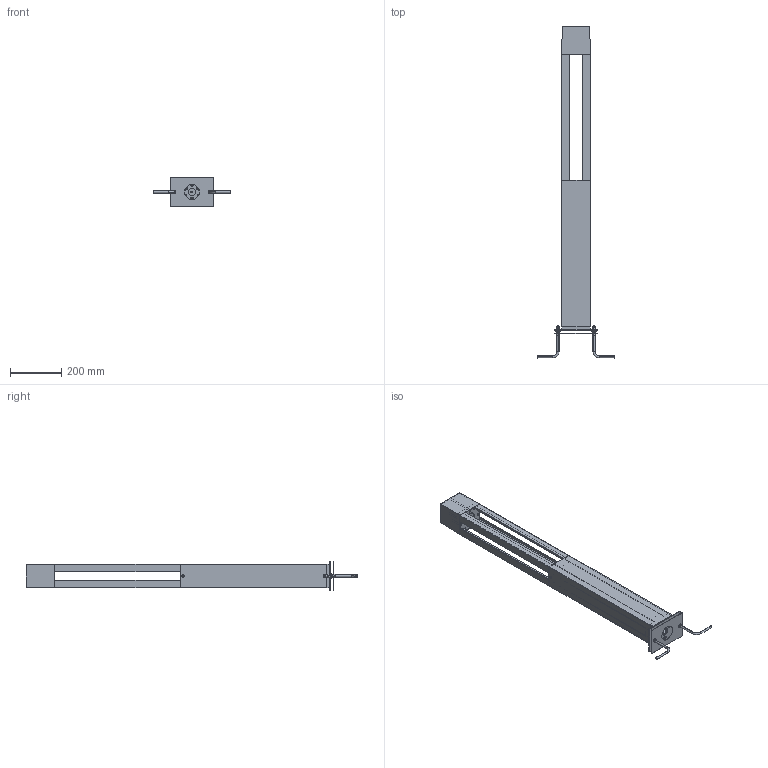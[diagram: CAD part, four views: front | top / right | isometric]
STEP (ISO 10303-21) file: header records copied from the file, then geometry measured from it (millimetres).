
FILE_DESCRIPTION((''),'2;1');
FILE_NAME('__9AU_1100_ANY_ASM_ANY_ASM','2024-09-19T',('Administrator'),(''),'CREO PARAMETRIC BY PTC INC, 2014500','CREO PARAMETRIC BY PTC INC, 2014500','');
FILE_SCHEMA(('CONFIG_CONTROL_DESIGN'));
Products named in the file (37): 9AU__U_O_W_M5_91_ANY_ANY; 9AU__U_O_W_1100_ANY-52988_ANY; 9AU__U_O_W__W___ANY_ANY; 9AU__U_O_W____Y_ANY_ANY; 9AU__U_O_W_1100_ANY-5680_ASM_AN_ASM; 9AU________W________ANY_ANY; 9AU________W_1100_ANY-29434_ANY; 9AU________W_1100_ANY-53109_ASM_ASM; 9AU__U_O_W____Y_____L___ANY_1_A; 9AU__U_O_W____Y________L_ANY_AN; 9AU__U_O_W____Y_____L______U_AN; 9AU__U_O_W____Y_____L______U___; 9AU__U_O_W____L_ANY_ANY; ___X__445_9AU__U_O_W____Y-75681_ASM; 9AU-JICHUZUO_ASM; 9AU__O_Y__________M4_105_ANY_AN; 9AU__SHANGGAI; 9AU__________ANY_ANY; 9AU__MG; GYZHUJIAN_ASM_ANY_ASM; 9AU__O_Y_____PC_ANY_ANY; 9AU__O_Y___________________ANY_; HKY1254413D742D_1; HKY1254413D742D_2; HKY1254413D742D_3; HKY1254413D742D_ASM; SANREBAN; D45-_-E_STP_ASM; QUDONG; HOUGAI; YABAN; M3LUOZHU; 1277QUDONG; M3LUOZHU_1_ANY; GUDINGBAN; 9AU__DENGTOU-110_ASM; __9AU_1100_ANY_ASM_ANY_ASM
Assembly tree (59 placements, depth 5):
  __9AU_1100_ANY_ASM_ANY_ASM
    9AU__U_O_W_1100_ANY-5680_ASM_AN_ASM
      9AU__U_O_W_M5_91_ANY_ANY  x4
      9AU__U_O_W_1100_ANY-52988_ANY
      9AU__U_O_W__W___ANY_ANY
      9AU__U_O_W____Y_ANY_ANY
    9AU________W_1100_ANY-53109_ASM_ASM  x4
      9AU________W________ANY_ANY
      9AU________W_1100_ANY-29434_ANY
    9AU-JICHUZUO_ASM
      9AU__U_O_W____Y_____L___ANY_1_A
      9AU__U_O_W____Y________L_ANY_AN
      9AU__U_O_W____Y_____L______U_AN  x3
      9AU__U_O_W____Y_____L______U___
      9AU__U_O_W____L_ANY_ANY
      ___X__445_9AU__U_O_W____Y-75681_ASM
        9AU__U_O_W____Y_____L___ANY_1_A
        9AU__U_O_W____Y_____L______U_AN  x3
        9AU__U_O_W____Y_____L______U___
    9AU__DENGTOU-110_ASM
      9AU__O_Y__________M4_105_ANY_AN  x8
      9AU__SHANGGAI
      9AU__________ANY_ANY
      9AU__MG
      GYZHUJIAN_ASM_ANY_ASM
      9AU__O_Y_____PC_ANY_ANY
      9AU__O_Y___________________ANY_
      D45-_-E_STP_ASM
        HKY1254413D742D_ASM
          HKY1254413D742D_1
          HKY1254413D742D_2
          HKY1254413D742D_3
        SANREBAN
      QUDONG
      HOUGAI
      YABAN
      M3LUOZHU  x2
      1277QUDONG
      M3LUOZHU_1_ANY  x2
      GUDINGBAN
Bounding box: 302 x 1291.85 x 110 mm (x, y, z)
Volume: 1966641.7 mm3; surface area: 1378615.3 mm2
Topology: 65 solids, 65 shells, 3305 faces, 8906 edges, 5812 vertices
Faces by surface type: plane 2006, cylinder 632, cone 350, bspline 119, torus 78, extrusion 74, sphere 46
Entity records: 93874 total; most frequent: CARTESIAN_POINT 28616, ORIENTED_EDGE 13894, DIRECTION 12668, EDGE_CURVE 6947, VECTOR 4848, LINE 4774, VERTEX_POINT 4566, AXIS2_PLACEMENT_3D 3910
